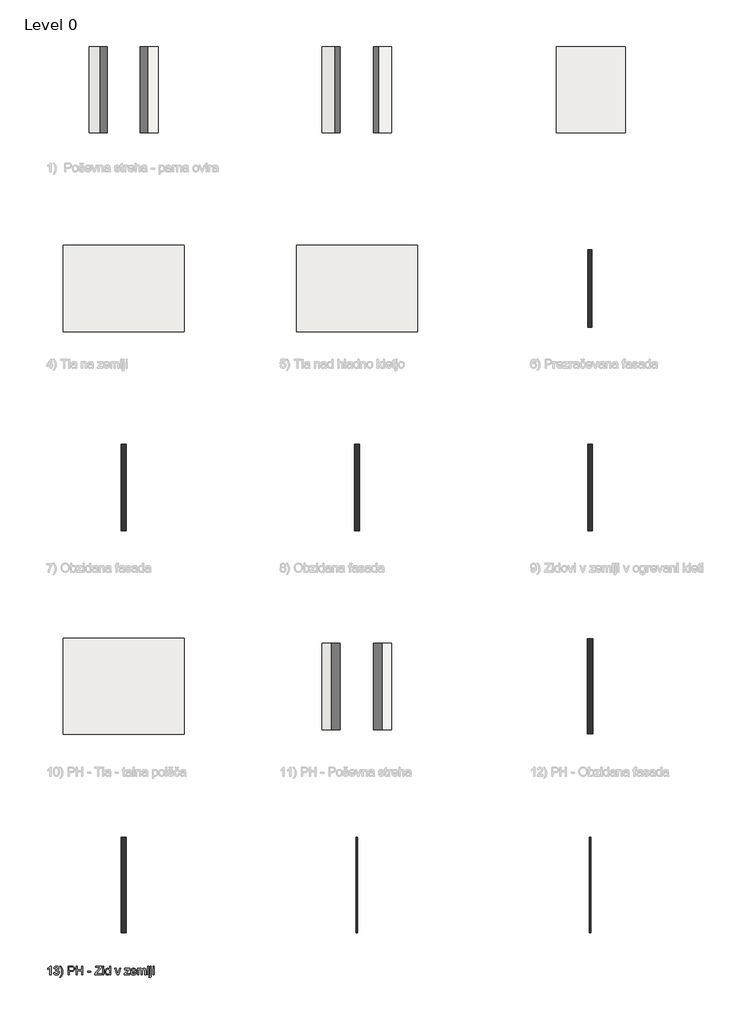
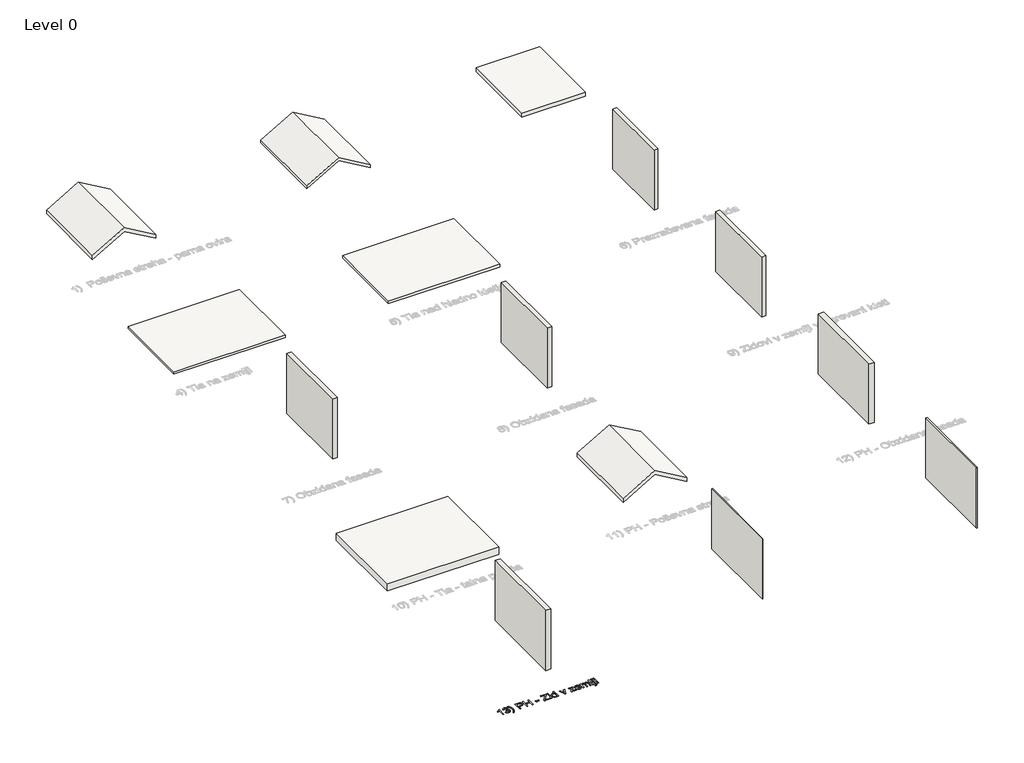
# One storey, part 1 of 11: 8 walls, 4 roofs, 3 slabs, 1 proxy.
"""IFC4 building model written with IfcOpenShell, lengths in millimetres."""

import ifcopenshell
import ifcopenshell.guid

model = None  # the IFC model being written
_history = None  # IfcOwnerHistory: only IFC2X3 demands one
_inside = {}  # id of a spatial element -> (the spatial element, [elements in it])
_under = {}  # id of a project, library or spatial element -> (it, [spatial elements below it])
_declared = {}  # id of a project -> (the project, [libraries it declares])
_typed = {}  # id of a type object -> (the type object, [elements of that type])
_made_of = {}  # id of a material, layer set ... -> (it, [elements and type objects made of it])


def new_model(schema):
    """Start an empty IFC model of exactly this schema.

    Asked for "IFC4X3", IfcOpenShell would pick the latest addendum, in which some entities
    have other attributes; the version numbers below select the first issue.
    IFC2X3 requires an IfcOwnerHistory on every rooted entity: one is made here for all.
    """
    global model, _history
    if schema == "IFC4X3":
        model = ifcopenshell.file(schema_version=(4, 3, 0, 0))
    else:
        model = ifcopenshell.file(schema=schema)
    _inside.clear()
    _under.clear()
    _declared.clear()
    _typed.clear()
    _made_of.clear()
    _history = None
    if model.schema == "IFC2X3":
        org = make("IfcOrganization", Name="unknown")
        user = make(
            "IfcPersonAndOrganization",
            ThePerson=make("IfcPerson", FamilyName="unknown"),
            TheOrganization=org,
        )
        app = make(
            "IfcApplication",
            ApplicationDeveloper=org,
            Version="unknown",
            ApplicationFullName="unknown",
            ApplicationIdentifier="unknown",
        )
        _history = make(
            "IfcOwnerHistory",
            OwningUser=user,
            OwningApplication=app,
            ChangeAction="ADDED",
            CreationDate=0,
        )
    return model


def make(cls, **values):
    """One entity of the class cls with the attributes given. An attribute that is None is left unset."""
    return model.create_entity(
        cls, **{name: value for name, value in values.items() if value is not None}
    )


def rooted(cls, **values):
    """An entity with a GlobalId (a new one), such as an element, a storey or a relation."""
    return make(cls, GlobalId=ifcopenshell.guid.new(), OwnerHistory=_history, **values)


def si_unit(unit_type, name, prefix=None):
    """IfcSIUnit, for example si_unit("LENGTHUNIT", "METRE", prefix="MILLI")."""
    return make("IfcSIUnit", UnitType=unit_type, Prefix=prefix, Name=name)


def assignment(units):
    """IfcUnitAssignment: the units of a project."""
    return None if units is None else make("IfcUnitAssignment", Units=units)


def point(xyz):
    """IfcCartesianPoint."""
    return None if xyz is None else make("IfcCartesianPoint", Coordinates=xyz)


def direction(xyz):
    """IfcDirection."""
    return None if xyz is None else make("IfcDirection", DirectionRatios=xyz)


def frame(location, z_axis=None, x_axis=None):
    """IfcAxis2Placement3D, a coordinate frame: its origin and axes. An axis left out is left unset."""
    return make(
        "IfcAxis2Placement3D",
        Location=point(location),
        Axis=direction(z_axis),
        RefDirection=direction(x_axis),
    )


def origin():
    """The frame at (0, 0, 0) with its axes left unset."""
    return frame((0.0, 0.0, 0.0))


def origin_with_axes():
    """The frame at (0, 0, 0) with the z axis (0, 0, 1) and the x axis (1, 0, 0) written out."""
    return frame((0.0, 0.0, 0.0), z_axis=(0.0, 0.0, 1.0), x_axis=(1.0, 0.0, 0.0))


def place(relative_to, where):
    """IfcLocalPlacement: puts the frame where relative to a parent placement (None: the world)."""
    return make(
        "IfcLocalPlacement", PlacementRelTo=relative_to, RelativePlacement=where
    )


def context(
    kind, dimensions, precision=None, world=None, true_north=None, identifier=None
):
    """IfcGeometricRepresentationContext, for example the 3D "Model" context."""
    return make(
        "IfcGeometricRepresentationContext",
        ContextIdentifier=identifier,
        ContextType=kind,
        CoordinateSpaceDimension=dimensions,
        Precision=precision,
        WorldCoordinateSystem=world,
        TrueNorth=true_north,
    )


def project(units=None, contexts=None):
    """IfcProject with its units and contexts."""
    return rooted(
        "IfcProject",
        Name="project",
        RepresentationContexts=contexts,
        UnitsInContext=assignment(units),
    )


def spatial(cls, under=None, at=None, **own):
    """A site, building, storey or space (cls), placed at a placement, below another one or the project."""
    s = rooted(cls, ObjectPlacement=at, **own)
    if under is not None:
        _under.setdefault(under.id(), (under, []))[1].append(s)
    return s


def polyline(points):
    """IfcPolyline through the points."""
    return make("IfcPolyline", Points=[point(p) for p in points])


def outline(outer, holes=None, kind="AREA"):
    """IfcArbitraryClosedProfileDef: a profile drawn as a closed curve; with holes, ...WithVoids."""
    if holes is None:
        return make("IfcArbitraryClosedProfileDef", ProfileType=kind, OuterCurve=outer)
    return make(
        "IfcArbitraryProfileDefWithVoids",
        ProfileType=kind,
        OuterCurve=outer,
        InnerCurves=holes,
    )


def extrude(swept, where, along, depth):
    """IfcExtrudedAreaSolid: the profile swept, set in the frame where, extruded along a direction by depth."""
    return make(
        "IfcExtrudedAreaSolid",
        SweptArea=swept,
        Position=where,
        ExtrudedDirection=direction(along),
        Depth=depth,
    )


def shape(context_of_items, identifier, shape_type, items):
    """IfcShapeRepresentation: the items that make up one representation, for example the "Body"."""
    return make(
        "IfcShapeRepresentation",
        ContextOfItems=context_of_items,
        RepresentationIdentifier=identifier,
        RepresentationType=shape_type,
        Items=items,
    )


def made_of(thing, what):
    """Note that an element or type object is made of a material, layer set ...; save() writes the relation."""
    if what is not None:
        _made_of.setdefault(what.id(), (what, []))[1].append(thing)
    return thing


def element(
    cls,
    number,
    at=None,
    inside=None,
    cuts=None,
    type_object=None,
    material=None,
    context=None,
    identifier="Body",
    shape_type=None,
    held_by="IfcProductDefinitionShape",
    body=None,
    shapes=None,
    **own,
):
    """One element of the class cls, such as IfcWall. Its Tag is "e" and its number.

    at: its placement. inside: the storey or other place that contains it. cuts: it is an
    opening in that element (IfcRelVoidsElement). A single representation is given by context,
    identifier, shape_type and body (its items); several are given by shapes. held_by: the class
    of the entity that holds the representations. save() writes the other relations.
    """
    e = rooted(cls, Tag="e%d" % number, ObjectPlacement=at, **own)
    if body is not None:
        shapes = [shape(context, identifier, shape_type, body)]
    if shapes is not None:
        e.Representation = make(held_by, Representations=shapes)
    if inside is not None:
        _inside.setdefault(inside.id(), (inside, []))[1].append(e)
    if cuts is not None:
        rooted(
            "IfcRelVoidsElement", RelatingBuildingElement=cuts, RelatedOpeningElement=e
        )
    if type_object is not None:
        _typed.setdefault(type_object.id(), (type_object, []))[1].append(e)
    return made_of(e, material)


def aggregate(whole, parts):
    """IfcRelAggregates: a whole, such as a stair, and the parts it consists of."""
    return rooted("IfcRelAggregates", RelatingObject=whole, RelatedObjects=parts)


def save(model, path):
    """Write the relations noted so far, then the file.

    IfcRelAggregates (storeys below a building ...), IfcRelContainedInSpatialStructure (elements
    in a storey), IfcRelDefinesByType, IfcRelAssociatesMaterial and IfcRelDeclares: one each for
    every whole, place, type object, material and project.
    """
    for whole, parts in _under.values():
        aggregate(whole, parts)
    for where, things in _inside.values():
        rooted(
            "IfcRelContainedInSpatialStructure",
            RelatedElements=things,
            RelatingStructure=where,
        )
    for kind, things in _typed.values():
        rooted("IfcRelDefinesByType", RelatedObjects=things, RelatingType=kind)
    for what, things in _made_of.values():
        rooted("IfcRelAssociatesMaterial", RelatedObjects=things, RelatingMaterial=what)
    for by, libraries in _declared.values():
        rooted("IfcRelDeclares", RelatingContext=by, RelatedDefinitions=libraries)
    model.write(path)


model = new_model("IFC4")

# Units and contexts
model_context = context("Model", 3, world=origin())
ifc_project = project(units=[si_unit("LENGTHUNIT", "METRE", prefix="MILLI")], contexts=[model_context])

# Site, building, storey
site = spatial("IfcSite", under=ifc_project)
building = spatial("IfcBuilding", under=site)
storey = spatial("IfcBuildingStorey", under=building, Name="Level 0", Elevation=0.0)

# Proxy
placement = place(None, origin())
element("IfcBuildingElementProxy", 1, Name="1000mm Arial", ObjectType="1000mm Arial", at=placement, inside=storey, context=model_context, shape_type="SweptSolid", body=[
    extrude(outline(polyline([(-8681.6650188, -100618.9210026), (-8807.2354065, -100618.9210026), (-8807.2354065, -99836.0681169), (-8859.6585908, -99878.4665168), (-8926.1839182, -99920.8036031), (-8996.0201837, -99957.8064004), (-9058.3761818, -99984.2019336), (-9058.3761818, -99865.4986765), (-9007.4168613, -99839.9462062), (-8959.7531503, -99811.8492188), (-8915.3850488, -99781.2077143), (-8874.3125569, -99748.0216927), (-8837.7619479, -99713.8239956), (-8806.959495, -99680.1474646), (-8781.9051983, -99646.9920998), (-8762.5990577, -99614.3579011), (-8681.6650188, -99614.3579011), (-8681.6650188, -100618.9210026)])), origin_with_axes(), (0.0, 0.0, 1.0), 10.0),
    extrude(outline(polyline([(-8383.435348, -100352.0839288), (-8257.8649603, -100336.3876303), (-8245.4412788, -100379.0466133), (-8229.7526445, -100415.2983183), (-8210.7990576, -100445.1427451), (-8188.5805179, -100468.5798939), (-8162.5911878, -100486.2842149), (-8132.3252295, -100498.9301585), (-8097.782643, -100506.5177247), (-8058.9634283, -100509.0469134), (-8013.4686882, -100505.5673628), (-7972.8790414, -100495.1287112), (-7937.1944879, -100477.7309585), (-7906.4150276, -100453.3741048), (-7881.6289782, -100423.8822315), (-7863.9246572, -100391.0794203), (-7853.3020646, -100354.9656711), (-7849.7612004, -100315.5409839), (-7853.2714077, -100277.9940278), (-7863.8020298, -100243.8346517), (-7881.3530667, -100213.0628556), (-7905.9245183, -100185.6786396), (-7935.9069009, -100163.1995169), (-7969.6907308, -100147.1430006), (-8007.276008, -100137.5090909), (-8048.6627324, -100134.2977876), (-8088.3326742, -100137.7313529), (-8136.7091566, -100148.0320488), (-8122.7296408, -100022.4616611), (-8102.6187584, -100023.9331891), (-8064.0064773, -100021.6799118), (-8027.3868904, -100014.9200802), (-7992.7599976, -100003.6536941), (-7960.1257989, -99987.8807535), (-7932.4426788, -99967.432646), (-7912.6690215, -99942.1407588), (-7900.8048272, -99912.005092), (-7896.8500957, -99877.0256457), (-7899.7165096, -99848.6297542), (-7908.3157513, -99822.7937082), (-7922.6478207, -99799.5175078), (-7942.7127178, -99778.8011529), (-7967.2994978, -99761.7942749), (-7995.1972158, -99749.6465048), (-8026.4058717, -99742.3578428), (-8060.9254656, -99739.9282888), (-8095.353089, -99742.3808354), (-8126.7763427, -99749.7384753), (-8155.1952269, -99762.0012085), (-8180.6097414, -99779.1690349), (-8202.3914212, -99801.2419547), (-8219.9118012, -99828.2199676), (-8233.1708814, -99860.1030739), (-8242.1686619, -99896.8912734), (-8367.7390496, -99881.1949749), (-8352.8551572, -99821.2455381), (-8330.7669091, -99768.4391434), (-8301.4743052, -99722.7757908), (-8264.9773456, -99684.2554802), (-8222.4256615, -99653.6752893), (-8174.9688841, -99631.8322959), (-8122.6070134, -99618.7264998), (-8065.3400495, -99614.3579011), (-8025.0646353, -99616.5115436), (-7986.3987047, -99622.9724712), (-7949.3422579, -99633.7406837), (-7913.8952949, -99648.8161813), (-7881.291753, -99667.6241483), (-7852.76557, -99689.5897691), (-7828.3167457, -99714.7130437), (-7807.9452802, -99742.9939721), (-7791.9040924, -99773.3059156), (-7780.4461011, -99804.5222358), (-7773.5713063, -99836.6429325), (-7771.2797081, -99869.6680058), (-7773.4563432, -99900.7233775), (-7779.9862486, -99930.368535), (-7790.8694243, -99958.6034781), (-7806.1058703, -99985.4282069), (-7825.603616, -100010.2142563), (-7849.270691, -100032.3331613), (-7877.1070953, -100051.7849218), (-7909.1128289, -100068.5695378), (-7867.266252, -100081.6600055), (-7830.5087093, -100100.3300167), (-7798.8402009, -100124.5795716), (-7772.2607267, -100154.40867), (-7751.2301393, -100189.0815481), (-7736.2082912, -100227.8624417), (-7727.1951823, -100270.751351), (-7724.1908127, -100317.7482759), (-7730.1995519, -100381.4531747), (-7737.710476, -100411.4202289), (-7748.2257697, -100440.1303529), (-7761.745433, -100467.5835468), (-7778.269466, -100493.7798106), (-7820.3306407, -100542.4015476), (-7845.1588433, -100564.0146148), (-7871.573537, -100582.7459397), (-7899.5747218, -100598.5955224), (-7929.1623977, -100611.5633627), (-7960.3365646, -100621.6494607), (-7993.0972227, -100628.8538165), (-8063.3780122, -100634.6173011), (-8126.8989701, -100629.6968794), (-8184.7790706, -100614.9356143), (-8237.0183139, -100590.3335059), (-8283.6167, -100555.8905541), (-8322.6888336, -100513.6301099), (-8352.3493194, -100465.5755243), (-8372.5981576, -100411.7267972), (-8383.435348, -100352.0839288)])), origin_with_axes(), (0.0, 0.0, 1.0), 10.0),
    extrude(outline(polyline([(-7551.5315296, -100901.4543749), (-7645.7093204, -100901.4543749), (-7594.205841, -100821.0644947), (-7549.5694923, -100740.6592862), (-7511.8002741, -100660.2387492), (-7480.8981865, -100579.8028838), (-7456.8632295, -100499.35169), (-7439.6954031, -100418.8851677), (-7429.3947072, -100338.4033171), (-7425.9611419, -100257.906138), (-7427.9385076, -100195.1209442), (-7433.8706048, -100132.581005), (-7443.7574334, -100070.2863205), (-7457.5989935, -100008.2368906), (-7487.5813761, -99909.7058296), (-7527.4965726, -99815.2214705), (-7571.27453, -99734.8392545), (-7645.7093204, -99614.3579011), (-7551.5315296, -99614.3579011), (-7489.3901293, -99698.4495938), (-7435.8939558, -99782.7252276), (-7391.0430092, -99867.1848023), (-7354.8372895, -99951.828318), (-7331.0169303, -100025.6346433), (-7314.0023881, -100101.1270944), (-7303.7936627, -100178.3056713), (-7300.3907542, -100257.170374), (-7304.9662865, -100346.902924), (-7318.6928835, -100435.1026323), (-7341.5705451, -100521.769499), (-7373.5992713, -100606.9035241), (-7412.1732313, -100688.5886554), (-7454.6865944, -100764.908841), (-7501.1393605, -100835.8640808), (-7551.5315296, -100901.4543749)])), origin_with_axes(), (0.0, 0.0, 1.0), 10.0),
    extrude(outline(polyline([(-6703.9314127, -100618.9210026), (-6703.9314127, -99614.3579011), (-6331.6348336, -99614.3579011), (-6244.9373101, -99616.7491341), (-6181.5389796, -99623.922833), (-6146.5978542, -99631.4567497), (-6114.6151133, -99641.7957666), (-6085.5907567, -99654.9398837), (-6059.5247845, -99670.889101), (-6036.1412852, -99689.9729795), (-6015.1643472, -99712.5210802), (-5996.5939707, -99738.5334029), (-5980.4301555, -99768.0099478), (-5967.3396879, -99799.9773603), (-5957.9893538, -99833.4622861), (-5952.3791534, -99868.4647251), (-5950.5090866, -99904.9846773), (-5955.5597998, -99966.6508967), (-5970.7119395, -100023.3813661), (-5995.9655056, -100075.1760853), (-6031.3204982, -100122.0350544), (-6053.5562823, -100142.8433798), (-6079.8579289, -100160.8772618), (-6110.225438, -100176.1367004), (-6144.6588095, -100188.6216956), (-6183.1580436, -100198.3322474), (-6225.72314, -100205.2683559), (-6323.0509204, -100210.8172426), (-6578.361025, -100210.8172426), (-6578.361025, -100618.9210026), (-6703.9314127, -100618.9210026)]), holes=[polyline([(-6578.361025, -100085.2468549), (-6315.6932805, -100085.2468549), (-6255.2993196, -100082.3651126), (-6204.3476633, -100073.7198857), (-6162.8383115, -100059.3111743), (-6130.7712642, -100039.1389782), (-6106.8436061, -100013.7397921), (-6089.7524218, -99983.6501106), (-6079.4977112, -99948.8699336), (-6076.0794743, -99909.3992612), (-6078.095161, -99880.091329), (-6084.1422213, -99852.9906886), (-6094.2206552, -99828.0973403), (-6108.3304625, -99805.4112839), (-6125.720551, -99785.6682835), (-6145.6398282, -99769.6041031), (-6168.0882941, -99757.2187426), (-6193.0659487, -99748.512202), (-6241.5037448, -99742.0742671), (-6318.6363364, -99739.9282888), (-6578.361025, -99739.9282888), (-6578.361025, -100085.2468549)])]), origin_with_axes(), (0.0, 0.0, 1.0), 10.0),
    extrude(outline(polyline([(-5777.8498035, -100618.9210026), (-5777.8498035, -99614.3579011), (-5652.2794158, -99614.3579011), (-5652.2794158, -100022.4616611), (-5118.6052682, -100022.4616611), (-5118.6052682, -99614.3579011), (-4993.0348805, -99614.3579011), (-4993.0348805, -100618.9210026), (-5118.6052682, -100618.9210026), (-5118.6052682, -100148.0320488), (-5652.2794158, -100148.0320488), (-5652.2794158, -100618.9210026), (-5777.8498035, -100618.9210026)])), origin_with_axes(), (0.0, 0.0, 1.0), 10.0),
    extrude(outline(polyline([(-4459.3607328, -100320.6913318), (-4459.3607328, -100195.1209442), (-4066.9532713, -100195.1209442), (-4066.9532713, -100320.6913318), (-4459.3607328, -100320.6913318)])), origin_with_axes(), (0.0, 0.0, 1.0), 10.0),
    extrude(outline(polyline([(-3596.0643175, -100618.9210026), (-3596.0643175, -100488.6907763), (-3082.2557975, -99859.6125646), (-2984.6444415, -99739.9282888), (-3533.2791236, -99739.9282888), (-3533.2791236, -99614.3579011), (-2826.9456929, -99614.3579011), (-2826.9456929, -99739.9282888), (-3389.3146362, -100428.3581291), (-3442.2896435, -100493.3506149), (-2811.2493944, -100493.3506149), (-2811.2493944, -100618.9210026), (-3596.0643175, -100618.9210026)])), origin_with_axes(), (0.0, 0.0, 1.0), 10.0),
    extrude(outline(polyline([(-2685.6790067, -100618.9210026), (-2685.6790067, -99881.1949749), (-2560.108619, -99881.1949749), (-2560.108619, -100618.9210026), (-2685.6790067, -100618.9210026)])), origin_with_axes(), (0.0, 0.0, 1.0), 10.0),
    extrude(outline(polyline([(-2685.6790067, -99739.9282888), (-2685.6790067, -99614.3579011), (-2560.108619, -99614.3579011), (-2560.108619, -99739.9282888), (-2685.6790067, -99739.9282888)])), origin_with_axes(), (0.0, 0.0, 1.0), 10.0),
    extrude(outline(polyline([(-1916.5603821, -100618.9210026), (-1916.5603821, -100500.4630002), (-1934.3528416, -100531.9054144), (-1954.1303309, -100559.1555068), (-1975.8928502, -100582.2132773), (-1999.6403994, -100601.0787258), (-2025.3729785, -100615.7518525), (-2053.0905876, -100626.2326573), (-2082.7932266, -100632.5211401), (-2114.4808956, -100634.6173011), (-2155.9289337, -100631.5822746), (-2195.6601892, -100622.4771952), (-2233.674662, -100607.3020629), (-2269.9723522, -100586.0568777), (-2303.4189569, -100559.3777688), (-2332.8801734, -100527.9008656), (-2358.3560015, -100491.6261681), (-2379.8464414, -100450.5536761), (-2396.9069689, -100405.4651391), (-2409.09306, -100357.1423062), (-2416.4047147, -100305.5851774), (-2418.8419329, -100250.7937528), (-2416.5963199, -100197.0063394), (-2409.8594808, -100145.7634431), (-2398.6314158, -100097.065064), (-2382.9121247, -100050.911202), (-2362.7092718, -100008.6507579), (-2338.0305213, -99971.6326321), (-2308.8758732, -99939.8568248), (-2275.2453274, -99913.3233359), (-2238.3268364, -99892.4000474), (-2199.3083523, -99877.4548413), (-2158.1898751, -99868.4877177), (-2114.9714049, -99865.4986765), (-2083.3642101, -99867.6369906), (-2053.5351117, -99874.0519329), (-2025.4841096, -99884.7435034), (-1999.2112037, -99899.711702), (-1975.0076341, -99918.0981376), (-1953.1646407, -99939.0444187), (-1933.6822233, -99962.5505453), (-1916.5603821, -99988.6165175), (-1916.5603821, -99614.3579011), (-1790.9899945, -99614.3579011), (-1790.9899945, -100618.9210026), (-1916.5603821, -100618.9210026)]), holes=[polyline([(-2293.2715452, -100250.3032434), (-2289.730681, -100311.1953778), (-2279.1080884, -100363.8868094), (-2261.4037674, -100408.3775382), (-2236.617718, -100444.6675642), (-2207.0185458, -100472.8335295), (-2174.8748564, -100492.9520761), (-2140.18665, -100505.0232041), (-2102.9539264, -100509.0469134), (-2065.544926, -100505.2071451), (-2031.0636531, -100493.6878401), (-1999.5101079, -100474.4889985), (-1970.8842901, -100447.6106202), (-1947.1175804, -100412.8381074), (-1930.1413591, -100369.9568624), (-1919.9556264, -100318.966885), (-1916.5603821, -100259.8681753), (-1920.0169401, -100195.0749589), (-1930.3866138, -100139.5094492), (-1947.6694034, -100093.1716462), (-1971.8653088, -100056.06155), (-2001.1195916, -100027.6273374), (-2033.5775134, -100007.3171856), (-2069.2390744, -99995.1310945), (-2108.1042743, -99991.0690642), (-2146.0727619, -99994.9701462), (-2180.7609684, -100006.6733921), (-2212.1688937, -100026.1788021), (-2240.2965379, -100053.486376), (-2263.4731036, -100089.1939222), (-2280.0277934, -100133.8992488), (-2289.9606073, -100187.6023559), (-2293.2715452, -100250.3032434)])]), origin_with_axes(), (0.0, 0.0, 1.0), 10.0),
    extrude(outline(polyline([(-1029.2290098, -100618.9210026), (-1288.7084437, -99881.1949749), (-1155.7804161, -99881.1949749), (-998.5721769, -100323.1438785), (-951.2380268, -100471.7682045), (-904.8848954, -100331.482537), (-746.6956375, -99881.1949749), (-613.7676099, -99881.1949749), (-870.0587332, -100618.9210026), (-1029.2290098, -100618.9210026)])), origin_with_axes(), (0.0, 0.0, 1.0), 10.0),
    extrude(outline(polyline([(-189.9675515, -100618.9210026), (-189.9675515, -100500.7082548), (243.3974389, -100006.7653626), (115.1292499, -100006.7653626), (-158.5749545, -100006.7653626), (-158.5749545, -99881.1949749), (422.1880885, -99881.1949749), (422.1880885, -99987.8807535), (37.8740309, -100426.1508371), (-20.9870883, -100493.3506149), (124.2036724, -100493.3506149), (437.884387, -100493.3506149), (437.884387, -100618.9210026), (-189.9675515, -100618.9210026)])), origin_with_axes(), (0.0, 0.0, 1.0), 10.0),
    extrude(outline(polyline([(1079.9610959, -100399.1728241), (1203.078937, -100414.8691226), (1184.2019921, -100464.1806384), (1158.7184997, -100507.6366991), (1126.6284598, -100545.2373047), (1087.9318725, -100576.9824552), (1043.0272764, -100602.1977002), (992.3132105, -100620.2085896), (935.7896748, -100631.0151232), (873.4566693, -100634.6173011), (833.438006, -100633.0633828), (795.5423284, -100628.4016282), (759.7696365, -100620.6320371), (726.1199302, -100609.7546096), (694.5932096, -100595.7693456), (665.1894748, -100578.6762452), (637.9087255, -100558.4753083), (612.750962, -100535.166535), (590.1607083, -100509.0526615), (570.5824883, -100480.436424), (554.0163022, -100449.3178226), (540.46215, -100415.6968571), (529.9200315, -100379.5735276), (522.389947, -100340.9478342), (517.8718962, -100299.8197768), (516.3658793, -100256.1893554), (517.8872246, -100211.0739936), (522.4512606, -100168.5567984), (530.0579873, -100128.6377698), (540.7074046, -100091.3169079), (554.3995126, -100056.5942125), (571.1343113, -100024.4696836), (590.9118007, -99994.9433214), (613.7319807, -99968.0151258), (638.9778826, -99943.987833), (666.0325377, -99923.1641792), (694.8959459, -99905.5441645), (725.5681072, -99891.1277888), (758.0490217, -99879.9150522), (792.3386893, -99871.9059546), (828.4371101, -99867.100496), (866.344284, -99865.4986765), (903.0117723, -99867.0966639), (937.96631, -99871.8906261), (971.2078971, -99879.8805632), (1002.7365337, -99891.0664751), (1032.5522198, -99905.4483619), (1060.6549554, -99923.0262235), (1087.0447404, -99943.8000599), (1111.7215748, -99967.7698711), (1134.0531616, -99994.6367531), (1153.4072034, -100024.1018017), (1169.7837003, -100056.1650168), (1183.1826524, -100090.8263985), (1193.6040595, -100128.0859468), (1201.0479218, -100167.9436618), (1207.0030116, -100255.4535914), (1206.2672476, -100289.2987349), (641.936267, -100289.2987349), (649.2096006, -100339.4073283), (663.6719615, -100383.2925847), (685.3233498, -100420.9545039), (714.1637654, -100452.3930861), (748.599053, -100477.1791355), (787.0350572, -100494.8834566), (829.4717782, -100505.5060492), (875.9092159, -100509.0469134), (910.6434076, -100507.4067728), (942.7411117, -100502.4863511), (972.2023281, -100494.2856483), (999.027057, -100482.8046644), (1023.2152981, -100467.736831), (1044.7670517, -100448.7755798), (1063.6823176, -100425.9209109), (1079.9610959, -100399.1728241)]), holes=[polyline([(641.936267, -100163.7283472), (1081.4326239, -100163.7283472), (1074.9793605, -100128.1970779), (1064.4487384, -100097.3869608), (1049.8407575, -100071.2979959), (1031.1554179, -100049.9301834), (996.9117355, -100024.1784437), (957.9469008, -100005.784344), (914.2609139, -99994.7478841), (865.8537747, -99991.0690642), (821.7002711, -99994.0044559), (781.210259, -100002.8106312), (744.3837384, -100017.4875899), (711.2207094, -100038.0353322), (683.3919693, -100063.5034962), (662.5683155, -100092.94172), (648.7497481, -100126.3500037), (641.936267, -100163.7283472)])]), origin_with_axes(), (0.0, 0.0, 1.0), 10.0),
    extrude(outline(polyline([(1332.5733993, -100618.9210026), (1332.5733993, -99881.1949749), (1458.1437869, -99881.1949749), (1458.1437869, -100002.5960333), (1475.6794954, -99973.2037948), (1495.9130051, -99946.8312542), (1518.8443161, -99923.4784118), (1544.4734285, -99903.1452673), (1572.3864749, -99886.6748838), (1602.1695881, -99874.9103242), (1633.8227681, -99867.8515884), (1667.3460149, -99865.4986765), (1703.9962586, -99867.8975737), (1737.1822803, -99875.0942652), (1766.9040798, -99887.0887511), (1793.1616572, -99903.8810313), (1815.8783704, -99924.995925), (1834.9775773, -99949.9582512), (1850.459278, -99978.76801), (1862.3234723, -100011.4252012), (1884.4040562, -99977.223672), (1908.0941239, -99947.5823467), (1933.3936753, -99922.5012252), (1960.3027104, -99901.9803077), (1988.8212292, -99886.019594), (2018.9492318, -99874.6190843), (2050.686718, -99867.7787784), (2084.0336881, -99865.4986765), (2134.3032299, -99869.2924596), (2178.4260767, -99880.6738088), (2216.4022285, -99899.6427242), (2248.2316852, -99926.1992057), (2273.3932809, -99960.6498217), (2291.3658492, -100003.3011405), (2302.1493902, -100054.1531621), (2305.7439038, -100113.2058866), (2305.7439038, -100618.9210026), (2180.1735161, -100618.9210026), (2180.1735161, -100167.1619125), (2177.261117, -100104.5300028), (2168.5239196, -100062.3155439), (2152.1531708, -100033.4061504), (2126.3401175, -100010.6894372), (2093.1387674, -99995.9741574), (2054.6031285, -99991.0690642), (2019.0182096, -99994.2113895), (1986.5756162, -100003.6383657), (1957.2753481, -100019.3499925), (1931.1174054, -100041.3462702), (1909.6039729, -100070.270992), (1894.2372354, -100106.7679516), (1885.0171929, -100150.837149), (1881.9438454, -100202.4785841), (1881.9438454, -100618.9210026), (1756.3734577, -100618.9210026), (1756.3734577, -100153.1823967), (1754.5570403, -100115.137267), (1749.1077883, -100082.1811716), (1740.0257015, -100054.3141105), (1727.3107801, -100031.5360836), (1710.4571862, -100013.8317626), (1688.9590821, -100001.185819), (1662.8164678, -99993.5982529), (1632.0293433, -99991.0690642), (1607.3659212, -99992.75519), (1583.652861, -99997.8135674), (1560.8901625, -100006.2441965), (1539.0778259, -100018.0470771), (1519.2121981, -100033.0995821), (1502.2896264, -100051.279084), (1488.3101105, -100072.5855829), (1477.2736507, -100097.0190788), (1468.9043353, -100125.882487), (1462.9262529, -100160.4787229), (1458.1437869, -100246.8696781), (1458.1437869, -100618.9210026), (1332.5733993, -100618.9210026)])), origin_with_axes(), (0.0, 0.0, 1.0), 10.0),
    extrude(outline(polyline([(2494.0994854, -100618.9210026), (2494.0994854, -99614.3579011), (2619.669873, -99614.3579011), (2619.669873, -100618.9210026), (2494.0994854, -100618.9210026)])), origin_with_axes(), (0.0, 0.0, 1.0), 10.0),
    extrude(outline(polyline([(2649.8361966, -100901.9448842), (2676.3237003, -100782.5058631), (2709.0038842, -100789.31168), (2733.9585462, -100791.5802857), (2751.5172473, -100790.0244514), (2766.669387, -100785.3569486), (2779.4149652, -100777.5777772), (2789.7539821, -100766.6869373), (2797.7477513, -100749.5727603), (2803.4575865, -100723.1235777), (2808.0254546, -100642.2201956), (2808.0254546, -99881.1949749), (2933.5958423, -99881.1949749), (2933.5958423, -100658.4070034), (2931.3732219, -100721.1921973), (2924.7053607, -100773.6766952), (2913.5922588, -100815.8604974), (2898.0339161, -100847.7436036), (2871.7303534, -100878.1091966), (2837.9465235, -100899.7989059), (2796.6824264, -100912.8127315), (2747.938062, -100917.1506734), (2698.028738, -100913.3492261), (2649.8361966, -100901.9448842)])), origin_with_axes(), (0.0, 0.0, 1.0), 10.0),
    extrude(outline(polyline([(2808.0254546, -99739.9282888), (2808.0254546, -99614.3579011), (2933.5958423, -99614.3579011), (2933.5958423, -99739.9282888), (2808.0254546, -99739.9282888)])), origin_with_axes(), (0.0, 0.0, 1.0), 10.0),
    extrude(outline(polyline([(3121.9514238, -100618.9210026), (3121.9514238, -99881.1949749), (3247.5218115, -99881.1949749), (3247.5218115, -100618.9210026), (3121.9514238, -100618.9210026)])), origin_with_axes(), (0.0, 0.0, 1.0), 10.0),
    extrude(outline(polyline([(3121.9514238, -99739.9282888), (3121.9514238, -99614.3579011), (3247.5218115, -99614.3579011), (3247.5218115, -99739.9282888), (3121.9514238, -99739.9282888)])), origin_with_axes(), (0.0, 0.0, 1.0), 10.0),
])

# Roofs
element("IfcRoof", 2, ObjectType="Poševna streha - parna ovira", at=placement, inside=storey, context=model_context, shape_type="SweptSolid", body=[
    extrude(outline(polyline([(487.8609775, 3718.0977046), (2797.2620542, -281.9022954), (487.8609775, -4281.9022954), (0.0, -4281.9022954), (2309.4010768, -281.9022954), (0.0, 3718.0977046), (487.8609775, 3718.0977046)])), frame((0.0, -3226.9489981, 0.0), z_axis=(0.0, 1.0, 0.0), x_axis=(0.0, 0.0, 1.0)), (0.0, 0.0, 1.0), 10000.0),
])
element("IfcRoof", 3, ObjectType="Poševna streha - parna zapora", at=placement, inside=storey, context=model_context, shape_type="SweptSolid", body=[
    extrude(outline(polyline([(386.2473301, 30718.0977046), (2695.6484068, 26718.0977046), (386.2473301, 22718.0977046), (0.0, 22718.0977046), (2309.4010768, 26718.0977046), (0.0, 30718.0977046), (386.2473301, 30718.0977046)])), frame((0.0, -3226.9489981, 0.0), z_axis=(0.0, 1.0, 0.0), x_axis=(0.0, 0.0, 1.0)), (0.0, 0.0, 1.0), 10000.0),
])
element("IfcRoof", 4, ObjectType="PH - Poševna streha", at=placement, inside=storey, context=model_context, shape_type="SweptSolid", body=[
    extrude(outline(polyline([(568.6900152, 30718.0977046), (2878.0910919, 26718.0977046), (568.6900152, 22718.0977046), (0.0, 22718.0977046), (2309.4010768, 26718.0977046), (0.0, 30718.0977046), (568.6900152, 30718.0977046)])), frame((0.0, -72244.5403416, 0.0), z_axis=(0.0, 1.0, 0.0), x_axis=(0.0, 0.0, 1.0)), (0.0, 0.0, 1.0), 10000.0),
])
element("IfcRoof", 5, ObjectType="Ravna streha - obrnjena streha ekstenzivna ozelenitev", at=placement, inside=storey, context=model_context, shape_type="SweptSolid", body=[
    extrude(outline(polyline([(49824.5712973, 6773.0510019), (57824.5712973, 6773.0510019), (57824.5712973, -3226.9489981), (49824.5712973, -3226.9489981), (49824.5712973, 6773.0510019)])), origin_with_axes(), (0.0, 0.0, 1.0), 553.0),
])

# Slabs
element("IfcSlab", 6, ObjectType="Tla nad hladno kletjo", at=placement, inside=storey, context=model_context, shape_type="SweptSolid", body=[
    extrude(outline(polyline([(33721.2483442, -16226.9489981), (33721.2483442, -26226.9489981), (19721.2483442, -26226.9489981), (19721.2483442, -16226.9489981), (33721.2483442, -16226.9489981)])), frame((0.0, 0.0, -362.0), z_axis=(0.0, 0.0, 1.0), x_axis=(1.0, 0.0, 0.0)), (0.0, 0.0, 1.0), 362.0),
])
element("IfcSlab", 7, ObjectType="Tla na zemlji", at=placement, inside=storey, context=model_context, shape_type="SweptSolid", body=[
    extrude(outline(polyline([(6718.0977046, -16226.9489981), (6718.0977046, -26226.9489981), (-7281.9022954, -26226.9489981), (-7281.9022954, -16226.9489981), (6718.0977046, -16226.9489981)])), frame((0.0, 0.0, -302.0), z_axis=(0.0, 0.0, 1.0), x_axis=(1.0, 0.0, 0.0)), (0.0, 0.0, 1.0), 302.0),
])
element("IfcSlab", 8, ObjectType="PH - Tla - talna plošča", at=placement, inside=storey, context=model_context, shape_type="SweptSolid", body=[
    extrude(outline(polyline([(6718.0977046, -61676.9489981), (6718.0977046, -72776.9489981), (-7281.9022954, -72776.9489981), (-7281.9022954, -61676.9489981), (6718.0977046, -61676.9489981)])), frame((0.0, 0.0, -980.0), z_axis=(0.0, 0.0, 1.0), x_axis=(1.0, 0.0, 0.0)), (0.0, 0.0, 1.0), 980.0),
])

# Walls
element("IfcWall", 9, ObjectType="Predelni zid - dvojno oploščenje", at=placement, inside=storey, context=model_context, shape_type="SweptSolid", body=[
    extrude(outline(polyline([(53643.0977046, -95726.9489981), (53643.0977046, -84726.9489981), (53793.0977046, -84726.9489981), (53793.0977046, -95726.9489981), (53643.0977046, -95726.9489981)])), origin_with_axes(), (0.0, 0.0, 1.0), 8000.0),
])
element("IfcWall", 10, ObjectType="Predelni zid - enojno oploščenje", at=placement, inside=storey, context=model_context, shape_type="SweptSolid", body=[
    extrude(outline(polyline([(26655.5977046, -95726.9489981), (26655.5977046, -84726.9489981), (26780.5977046, -84726.9489981), (26780.5977046, -95726.9489981), (26655.5977046, -95726.9489981)])), origin_with_axes(), (0.0, 0.0, 1.0), 8000.0),
])
element("IfcWall", 11, ObjectType="PH - Zid v zemlji", at=placement, inside=storey, context=model_context, shape_type="SweptSolid", body=[
    extrude(outline(polyline([(-581.4022954, -95726.9489981), (-581.4022954, -84726.9489981), (17.5977046, -84726.9489981), (17.5977046, -95726.9489981), (-581.4022954, -95726.9489981)])), origin_with_axes(), (0.0, 0.0, 1.0), 8000.0),
])
element("IfcWall", 12, ObjectType="Prezračevana fasada", at=placement, inside=storey, context=model_context, shape_type="SweptSolid", body=[
    extrude(outline(polyline([(53484.5977046, -25726.9489981), (53484.5977046, -16726.9489981), (53951.5977046, -16726.9489981), (53951.5977046, -25726.9489981), (53484.5977046, -25726.9489981)])), origin_with_axes(), (0.0, 0.0, 1.0), 8000.0),
])
element("IfcWall", 13, ObjectType="Obzidana fasada (7)", at=placement, inside=storey, context=model_context, shape_type="SweptSolid", body=[
    extrude(outline(polyline([(-557.4022954, -49226.9489981), (-557.4022954, -39226.9489981), (-6.4022954, -39226.9489981), (-6.4022954, -49226.9489981), (-557.4022954, -49226.9489981)])), origin_with_axes(), (0.0, 0.0, 1.0), 8000.0),
])
element("IfcWall", 14, ObjectType="PH - Obzidana fasada", at=placement, inside=storey, context=model_context, shape_type="SweptSolid", body=[
    extrude(outline(polyline([(53386.0977046, -72726.9489981), (53386.0977046, -61726.9489981), (54050.0977046, -61726.9489981), (54050.0977046, -72726.9489981), (53386.0977046, -72726.9489981)])), origin_with_axes(), (0.0, 0.0, 1.0), 8000.0),
])
element("IfcWall", 15, ObjectType="Zidovi v zemlji v ogrevani kleti", at=placement, inside=storey, context=model_context, shape_type="SweptSolid", body=[
    extrude(outline(polyline([(53468.5977046, -49226.9489981), (53468.5977046, -39226.9489981), (53967.5977046, -39226.9489981), (53967.5977046, -49226.9489981), (53468.5977046, -49226.9489981)])), origin_with_axes(), (0.0, 0.0, 1.0), 8000.0),
])
element("IfcWall", 16, ObjectType="Obzidana fasada (8)", at=placement, inside=storey, context=model_context, shape_type="SweptSolid", body=[
    extrude(outline(polyline([(26428.1362261, -49226.9489981), (26428.1362261, -39226.9489981), (27012.1362261, -39226.9489981), (27012.1362261, -49226.9489981), (26428.1362261, -49226.9489981)])), origin_with_axes(), (0.0, 0.0, 1.0), 8000.0),
])

save(model, "model.ifc")
